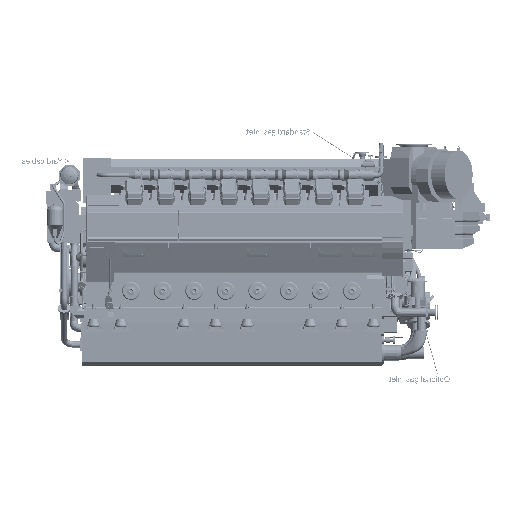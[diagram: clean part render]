
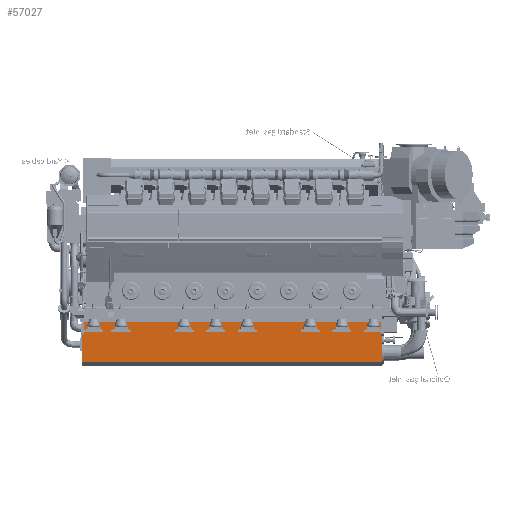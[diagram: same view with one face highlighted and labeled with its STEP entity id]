
A CAD part, front view. The second image highlights one B-rep face of the part: STEP entity #57027.
In plain terms, the highlighted planar face has unit normal (0, -0.999, -0.052).
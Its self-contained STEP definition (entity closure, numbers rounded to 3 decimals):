
#38464=FACE_OUTER_BOUND('',#152198,.T.);
#57027=ADVANCED_FACE('',(#38464),#70452,.F.);
#70452=PLANE('',#360623);
#89402=LINE('',#650697,#114329);
#89433=LINE('',#650779,#114360);
#89434=LINE('',#650783,#114361);
#89438=LINE('',#650795,#114365);
#89439=LINE('',#650798,#114366);
#89440=LINE('',#650799,#114367);
#89441=LINE('',#650800,#114368);
#89442=LINE('',#650801,#114369);
#89443=LINE('',#650803,#114370);
#89444=LINE('',#650805,#114371);
#89445=LINE('',#650807,#114372);
#89446=LINE('',#650809,#114373);
#114329=VECTOR('',#428456,1.);
#114360=VECTOR('',#428515,1.);
#114361=VECTOR('',#428518,1.);
#114365=VECTOR('',#428528,1.);
#114366=VECTOR('',#428529,1.);
#114367=VECTOR('',#428530,1.);
#114368=VECTOR('',#428531,1.);
#114369=VECTOR('',#428532,1.);
#114370=VECTOR('',#428533,1.);
#114371=VECTOR('',#428534,1.);
#114372=VECTOR('',#428535,1.);
#114373=VECTOR('',#428536,1.);
#152198=EDGE_LOOP('',(#219079,#219080,#219081,#219082,#219083,#219084,#219085,
#219086,#219087,#219088,#219089,#219090));
#219079=ORIENTED_EDGE('',*,*,#311101,.F.);
#219080=ORIENTED_EDGE('',*,*,#311102,.T.);
#219081=ORIENTED_EDGE('',*,*,#311051,.F.);
#219082=ORIENTED_EDGE('',*,*,#311103,.T.);
#219083=ORIENTED_EDGE('',*,*,#311095,.T.);
#219084=ORIENTED_EDGE('',*,*,#311104,.T.);
#219085=ORIENTED_EDGE('',*,*,#311093,.T.);
#219086=ORIENTED_EDGE('',*,*,#311105,.F.);
#219087=ORIENTED_EDGE('',*,*,#311106,.F.);
#219088=ORIENTED_EDGE('',*,*,#311107,.F.);
#219089=ORIENTED_EDGE('',*,*,#311108,.T.);
#219090=ORIENTED_EDGE('',*,*,#311109,.F.);
#271163=VERTEX_POINT('',#650696);
#271164=VERTEX_POINT('',#650698);
#271200=VERTEX_POINT('',#650778);
#271201=VERTEX_POINT('',#650780);
#271202=VERTEX_POINT('',#650782);
#271203=VERTEX_POINT('',#650784);
#271208=VERTEX_POINT('',#650796);
#271209=VERTEX_POINT('',#650797);
#271210=VERTEX_POINT('',#650802);
#271211=VERTEX_POINT('',#650804);
#271212=VERTEX_POINT('',#650806);
#271213=VERTEX_POINT('',#650808);
#311051=EDGE_CURVE('',#271163,#271164,#89402,.T.);
#311093=EDGE_CURVE('',#271201,#271200,#89433,.T.);
#311095=EDGE_CURVE('',#271203,#271202,#89434,.T.);
#311101=EDGE_CURVE('',#271208,#271209,#89438,.T.);
#311102=EDGE_CURVE('',#271208,#271164,#89439,.T.);
#311103=EDGE_CURVE('',#271163,#271203,#89440,.T.);
#311104=EDGE_CURVE('',#271202,#271201,#89441,.T.);
#311105=EDGE_CURVE('',#271210,#271200,#89442,.T.);
#311106=EDGE_CURVE('',#271211,#271210,#89443,.T.);
#311107=EDGE_CURVE('',#271212,#271211,#89444,.T.);
#311108=EDGE_CURVE('',#271212,#271213,#89445,.T.);
#311109=EDGE_CURVE('',#271209,#271213,#89446,.T.);
#360623=AXIS2_PLACEMENT_3D('',#650810,#428537,#428538);
#428456=DIRECTION('',(0.,-0.052,0.999));
#428515=DIRECTION('',(0.,-0.052,0.999));
#428518=DIRECTION('',(0.,-0.052,0.999));
#428528=DIRECTION('',(0.,-0.052,0.999));
#428529=DIRECTION('',(-1.,0.,0.));
#428530=DIRECTION('',(1.,0.,0.));
#428531=DIRECTION('',(0.,-0.052,0.999));
#428532=DIRECTION('',(1.,0.,0.));
#428533=DIRECTION('',(0.,0.052,-0.999));
#428534=DIRECTION('',(1.,0.,0.));
#428535=DIRECTION('',(0.,0.052,-0.999));
#428536=DIRECTION('',(1.,0.,0.));
#428537=DIRECTION('',(0.,0.999,0.052));
#428538=DIRECTION('',(0.,-0.052,0.999));
#650696=CARTESIAN_POINT('',(-5335.,-519.799,-1402.936));
#650697=CARTESIAN_POINT('',(-5335.,-519.799,-1402.936));
#650698=CARTESIAN_POINT('',(-5335.,-545.423,-914.));
#650778=CARTESIAN_POINT('',(0.,-543.66,-947.642));
#650779=CARTESIAN_POINT('',(0.,-519.799,-1402.936));
#650780=CARTESIAN_POINT('',(0.,-542.122,-976.978));
#650782=CARTESIAN_POINT('',(0.,-537.389,-1067.285));
#650783=CARTESIAN_POINT('',(0.,-519.799,-1402.936));
#650784=CARTESIAN_POINT('',(0.,-519.799,-1402.936));
#650795=CARTESIAN_POINT('',(-5330.,-519.799,-1402.936));
#650796=CARTESIAN_POINT('',(-5330.,-545.423,-914.));
#650797=CARTESIAN_POINT('',(-5330.,-545.632,-910.));
#650798=CARTESIAN_POINT('',(-5335.,-545.423,-914.));
#650799=CARTESIAN_POINT('',(-5335.,-519.799,-1402.936));
#650800=CARTESIAN_POINT('',(0.,-519.799,-1402.936));
#650801=CARTESIAN_POINT('',(-30.,-543.66,-947.642));
#650802=CARTESIAN_POINT('',(-30.,-543.66,-947.642));
#650803=CARTESIAN_POINT('',(-30.,-556.9,-695.));
#650804=CARTESIAN_POINT('',(-30.,-556.9,-695.));
#650805=CARTESIAN_POINT('',(-5335.,-556.9,-695.));
#650806=CARTESIAN_POINT('',(-5300.,-556.9,-695.));
#650807=CARTESIAN_POINT('',(-5300.,-519.799,-1402.936));
#650808=CARTESIAN_POINT('',(-5300.,-545.632,-910.));
#650809=CARTESIAN_POINT('',(-5335.,-545.632,-910.));
#650810=CARTESIAN_POINT('',(-5335.,-519.799,-1402.936));
